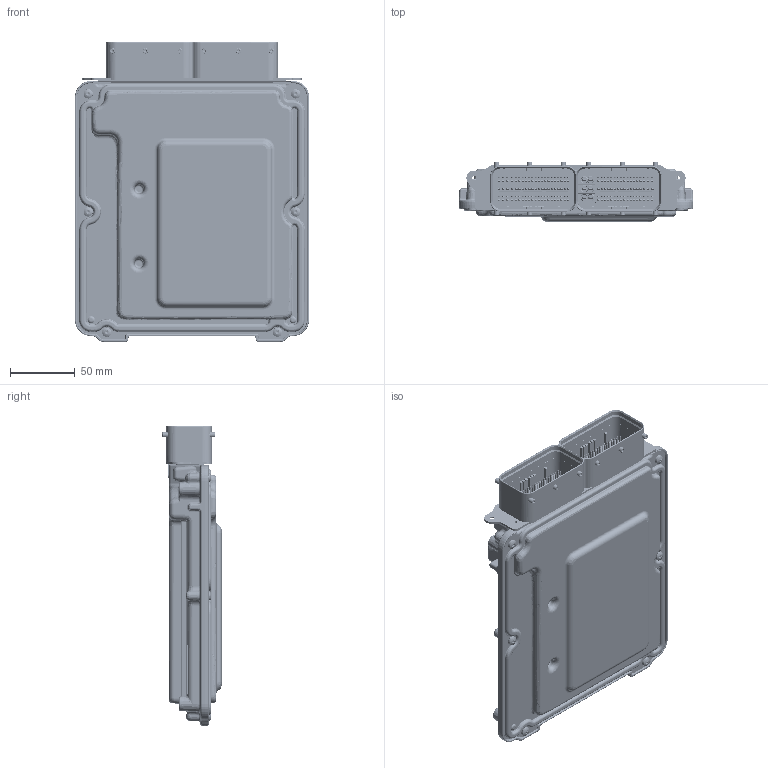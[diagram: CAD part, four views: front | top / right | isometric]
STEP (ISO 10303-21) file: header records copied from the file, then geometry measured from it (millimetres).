
FILE_DESCRIPTION(/* description */ (''),/* implementation_level */ '2;1');
FILE_NAME(/* name */ 'MS6.stp',/* time_stamp */ '2017-10-27T16:45:06+02:00',/* author */ (''),/* organization */ (''),/* preprocessor_version */ 'ST-DEVELOPER v16',/* originating_system */ 'SIEMENS PLM Software NX 11.0',/* authorisation */ '');
FILE_SCHEMA (('AUTOMOTIVE_DESIGN { 1 0 10303 214 3 1 1 1 }'));
Products named in the file (1): MS6_stp
Bounding box: 181 x 45.7 x 231.75 mm (x, y, z)
Volume: 966886.8 mm3; surface area: 184906.4 mm2
Topology: 1 solids, 8 shells, 8935 faces, 26958 edges, 18313 vertices
Faces by surface type: plane 5170, cylinder 2080, bspline 959, torus 323, cone 303, sphere 100
Entity records: 477755 total; most frequent: CARTESIAN_POINT 254301, ORIENTED_EDGE 53836, DIRECTION 35630, EDGE_CURVE 26918, VERTEX_POINT 18313, LINE 13630, VECTOR 13630, AXIS2_PLACEMENT_3D 11000
